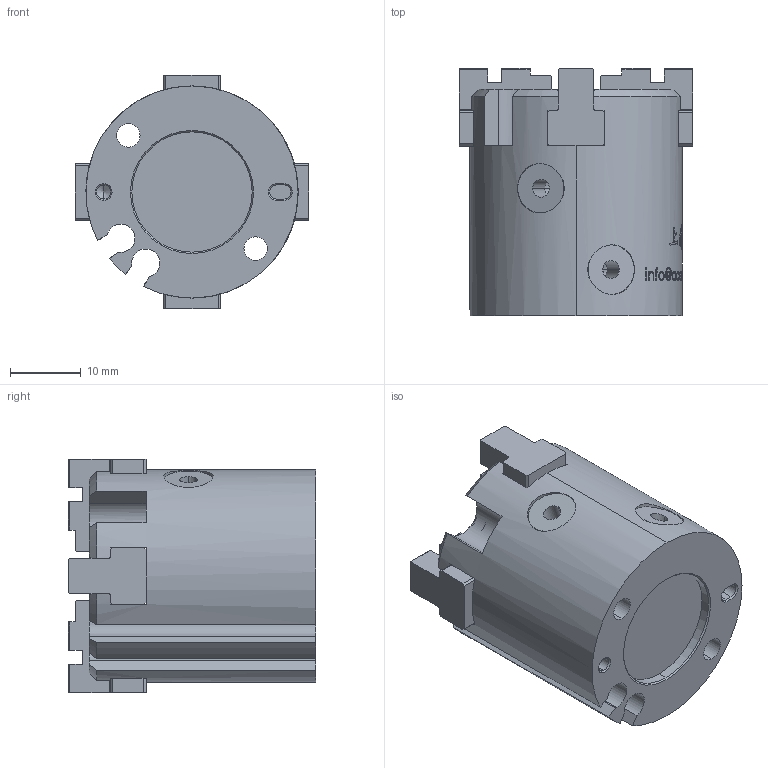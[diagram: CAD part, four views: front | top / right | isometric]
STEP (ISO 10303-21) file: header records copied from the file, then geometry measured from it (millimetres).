
FILE_DESCRIPTION (( 'STEP AP203' ), '1' );
FILE_NAME ('GPS 4-30-原始檔-組合-W106.04.17.STEP', '2017-04-17T00:51:56', ( 'DanyaoCAD' ), ( '' ), 'SwSTEP 2.0', 'SolidWorks 2016', '' );
FILE_SCHEMA (( 'CONFIG_CONTROL_DESIGN' ));
Length unit declared in the file: millimetre
Products named in the file (4): GPS 4-30-原始檔-組合-W106.04.17; Piastrina; Corpo; Griffa
Assembly tree (6 placements, depth 2):
  GPS 4-30-原始檔-組合-W106.04.17
    Piastrina
    Corpo
    Griffa  x4
Bounding box: 33 x 35 x 33 mm (x, y, z)
Volume: 20539.4 mm3; surface area: 9889.5 mm2
Topology: 6 solids, 6 shells, 1115 faces, 3127 edges, 2063 vertices
Faces by surface type: bspline 665, plane 303, cylinder 107, cone 40
Entity records: 66614 total; most frequent: CARTESIAN_POINT 46902, ORIENTED_EDGE 5466, EDGE_CURVE 2733, B_SPLINE_CURVE_WITH_KNOTS 2064, VERTEX_POINT 1817, DIRECTION 1489, EDGE_LOOP 1036, ADVANCED_FACE 977
